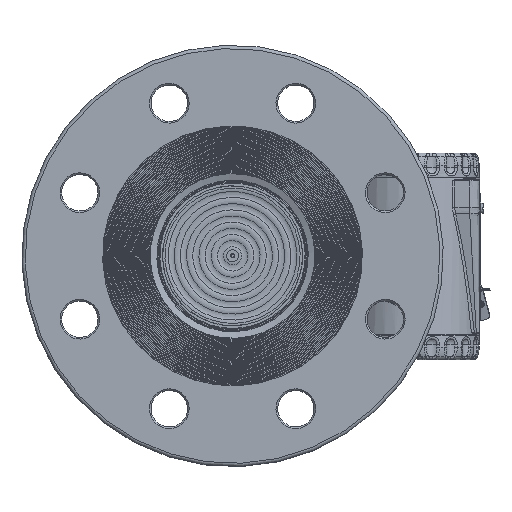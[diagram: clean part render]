
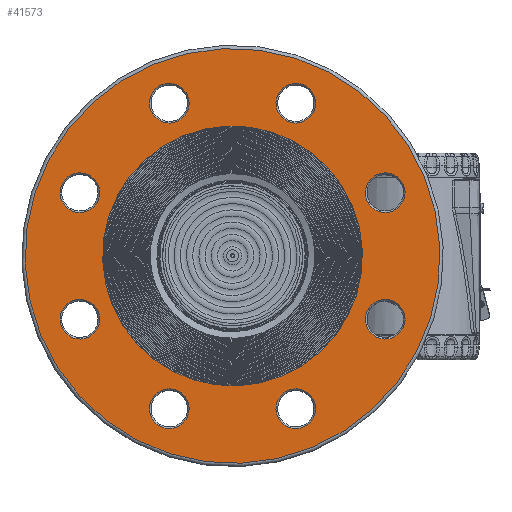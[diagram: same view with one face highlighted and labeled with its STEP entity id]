
A CAD part, top view. The second image highlights one B-rep face of the part: STEP entity #41573.
In plain terms, the highlighted planar face has unit normal (0, 0, 1).
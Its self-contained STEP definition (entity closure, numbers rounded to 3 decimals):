
#675=FACE_BOUND('',#6876,.T.);
#676=FACE_BOUND('',#6877,.T.);
#677=FACE_BOUND('',#6878,.T.);
#678=FACE_BOUND('',#6879,.T.);
#679=FACE_BOUND('',#6880,.T.);
#680=FACE_BOUND('',#6881,.T.);
#681=FACE_BOUND('',#6882,.T.);
#682=FACE_BOUND('',#6883,.T.);
#683=FACE_BOUND('',#6884,.T.);
#2703=PLANE('',#46146);
#4102=FACE_OUTER_BOUND('',#6875,.T.);
#6875=EDGE_LOOP('',(#31582));
#6876=EDGE_LOOP('',(#31583));
#6877=EDGE_LOOP('',(#31584));
#6878=EDGE_LOOP('',(#31585));
#6879=EDGE_LOOP('',(#31586));
#6880=EDGE_LOOP('',(#31587));
#6881=EDGE_LOOP('',(#31588));
#6882=EDGE_LOOP('',(#31589));
#6883=EDGE_LOOP('',(#31590));
#6884=EDGE_LOOP('',(#31591));
#13658=CIRCLE('',#46143,125.5);
#13660=CIRCLE('',#46147,12.);
#13661=CIRCLE('',#46148,12.);
#13662=CIRCLE('',#46149,12.);
#13663=CIRCLE('',#46150,12.);
#13664=CIRCLE('',#46151,78.6);
#13665=CIRCLE('',#46152,12.);
#13666=CIRCLE('',#46153,12.);
#13667=CIRCLE('',#46154,12.);
#13668=CIRCLE('',#46155,12.);
#18206=VERTEX_POINT('',#73383);
#18208=VERTEX_POINT('',#73391);
#18209=VERTEX_POINT('',#73393);
#18210=VERTEX_POINT('',#73395);
#18211=VERTEX_POINT('',#73397);
#18212=VERTEX_POINT('',#73399);
#18213=VERTEX_POINT('',#73401);
#18214=VERTEX_POINT('',#73403);
#18215=VERTEX_POINT('',#73405);
#18216=VERTEX_POINT('',#73407);
#22974=EDGE_CURVE('',#18206,#18206,#13658,.T.);
#22977=EDGE_CURVE('',#18208,#18208,#13660,.T.);
#22978=EDGE_CURVE('',#18209,#18209,#13661,.T.);
#22979=EDGE_CURVE('',#18210,#18210,#13662,.T.);
#22980=EDGE_CURVE('',#18211,#18211,#13663,.T.);
#22981=EDGE_CURVE('',#18212,#18212,#13664,.T.);
#22982=EDGE_CURVE('',#18213,#18213,#13665,.T.);
#22983=EDGE_CURVE('',#18214,#18214,#13666,.T.);
#22984=EDGE_CURVE('',#18215,#18215,#13667,.T.);
#22985=EDGE_CURVE('',#18216,#18216,#13668,.T.);
#31582=ORIENTED_EDGE('',*,*,#22974,.F.);
#31583=ORIENTED_EDGE('',*,*,#22977,.F.);
#31584=ORIENTED_EDGE('',*,*,#22978,.F.);
#31585=ORIENTED_EDGE('',*,*,#22979,.F.);
#31586=ORIENTED_EDGE('',*,*,#22980,.F.);
#31587=ORIENTED_EDGE('',*,*,#22981,.F.);
#31588=ORIENTED_EDGE('',*,*,#22982,.F.);
#31589=ORIENTED_EDGE('',*,*,#22983,.F.);
#31590=ORIENTED_EDGE('',*,*,#22984,.F.);
#31591=ORIENTED_EDGE('',*,*,#22985,.F.);
#41573=ADVANCED_FACE('',(#4102,#675,#676,#677,#678,#679,#680,#681,#682,
#683),#2703,.T.);
#46143=AXIS2_PLACEMENT_3D('',#73385,#54308,#54309);
#46146=AXIS2_PLACEMENT_3D('',#73390,#54315,#54316);
#46147=AXIS2_PLACEMENT_3D('',#73392,#54317,#54318);
#46148=AXIS2_PLACEMENT_3D('',#73394,#54319,#54320);
#46149=AXIS2_PLACEMENT_3D('',#73396,#54321,#54322);
#46150=AXIS2_PLACEMENT_3D('',#73398,#54323,#54324);
#46151=AXIS2_PLACEMENT_3D('',#73400,#54325,#54326);
#46152=AXIS2_PLACEMENT_3D('',#73402,#54327,#54328);
#46153=AXIS2_PLACEMENT_3D('',#73404,#54329,#54330);
#46154=AXIS2_PLACEMENT_3D('',#73406,#54331,#54332);
#46155=AXIS2_PLACEMENT_3D('',#73408,#54333,#54334);
#54308=DIRECTION('center_axis',(0.,0.,-1.));
#54309=DIRECTION('ref_axis',(-1.,0.,0.));
#54315=DIRECTION('center_axis',(0.,0.,1.));
#54316=DIRECTION('ref_axis',(1.,0.,0.));
#54317=DIRECTION('center_axis',(0.,0.,1.));
#54318=DIRECTION('ref_axis',(-0.707,0.707,0.));
#54319=DIRECTION('center_axis',(0.,0.,1.));
#54320=DIRECTION('ref_axis',(0.707,0.707,0.));
#54321=DIRECTION('center_axis',(0.,0.,1.));
#54322=DIRECTION('ref_axis',(-0.707,-0.707,0.));
#54323=DIRECTION('center_axis',(0.,0.,1.));
#54324=DIRECTION('ref_axis',(0.,-1.,0.));
#54325=DIRECTION('center_axis',(0.,0.,1.));
#54326=DIRECTION('ref_axis',(-1.,0.,0.));
#54327=DIRECTION('center_axis',(0.,0.,1.));
#54328=DIRECTION('ref_axis',(0.707,-0.707,0.));
#54329=DIRECTION('center_axis',(0.,0.,1.));
#54330=DIRECTION('ref_axis',(-1.,0.,0.));
#54331=DIRECTION('center_axis',(0.,0.,1.));
#54332=DIRECTION('ref_axis',(1.,0.,0.));
#54333=DIRECTION('center_axis',(0.,0.,1.));
#54334=DIRECTION('ref_axis',(0.,1.,0.));
#73383=CARTESIAN_POINT('',(125.5,0.,30.2));
#73385=CARTESIAN_POINT('Origin',(0.,0.,30.2));
#73390=CARTESIAN_POINT('Origin',(0.,0.,30.2));
#73391=CARTESIAN_POINT('',(79.196,62.225,30.2));
#73392=CARTESIAN_POINT('Origin',(70.711,70.711,30.2));
#73393=CARTESIAN_POINT('',(62.225,-79.196,30.2));
#73394=CARTESIAN_POINT('Origin',(70.711,-70.711,30.2));
#73395=CARTESIAN_POINT('',(-62.225,79.196,30.2));
#73396=CARTESIAN_POINT('Origin',(-70.711,70.711,30.2));
#73397=CARTESIAN_POINT('',(-100.,12.,30.2));
#73398=CARTESIAN_POINT('Origin',(-100.,0.,30.2));
#73399=CARTESIAN_POINT('',(78.6,0.,30.2));
#73400=CARTESIAN_POINT('Origin',(0.,0.,30.2));
#73401=CARTESIAN_POINT('',(-79.196,-62.225,30.2));
#73402=CARTESIAN_POINT('Origin',(-70.711,-70.711,30.2));
#73403=CARTESIAN_POINT('',(12.,100.,30.2));
#73404=CARTESIAN_POINT('Origin',(0.,100.,30.2));
#73405=CARTESIAN_POINT('',(-12.,-100.,30.2));
#73406=CARTESIAN_POINT('Origin',(0.,-100.,30.2));
#73407=CARTESIAN_POINT('',(100.,-12.,30.2));
#73408=CARTESIAN_POINT('Origin',(100.,0.,30.2));
